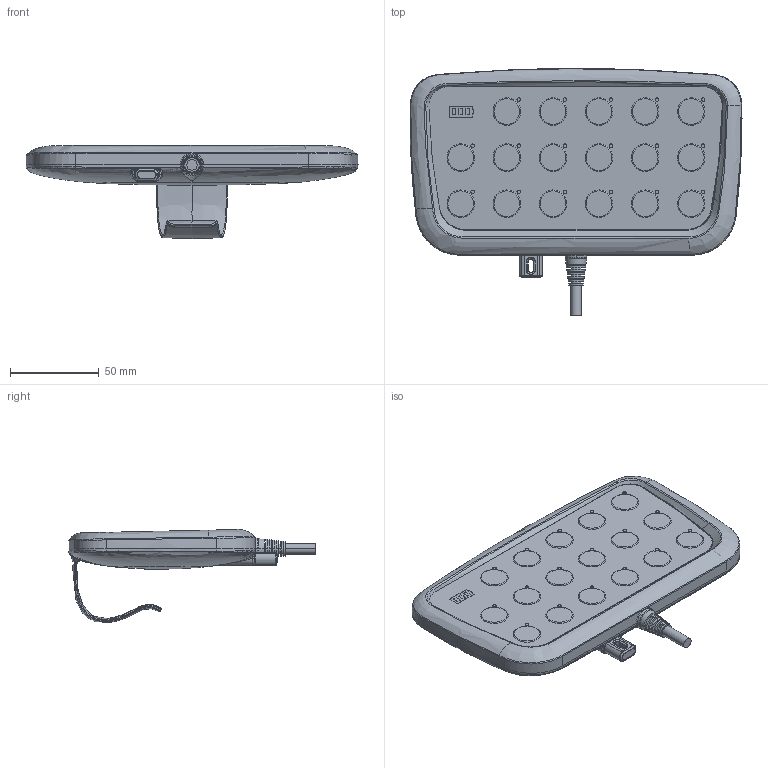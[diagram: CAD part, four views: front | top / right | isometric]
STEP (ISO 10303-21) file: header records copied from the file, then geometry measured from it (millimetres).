
FILE_DESCRIPTION (( 'STEP AP203' ), '1' );
FILE_NAME ('TNP6.STEP', '2014-03-04T08:35:45', ( '' ), ( '' ), 'SwSTEP 2.0', 'SolidWorks 2010', '' );
FILE_SCHEMA (( 'CONFIG_CONTROL_DESIGN' ));
Length unit declared in the file: millimetre
Products named in the file (7): TNP6; 2012-0904_TNP6_A_Front; 2012-0904_TNP6_A_Back; 2012-0904_TNP6_A_Panel; 三維零件圖-40510-005-SR-A; KEY; 2012-0904_TNP6_A_Hook
Assembly tree (6 placements, depth 2):
  TNP6
    2012-0904_TNP6_A_Panel
    三維零件圖-40510-005-SR-A
    2012-0904_TNP6_A_Hook
    2012-0904_TNP6_A_Front
    KEY
    2012-0904_TNP6_A_Back
Bounding box: 187.24 x 139.27 x 52.51 mm (x, y, z)
Volume: 304245.8 mm3; surface area: 119963.2 mm2
Topology: 6 solids, 7 shells, 716 faces, 1712 edges, 1050 vertices
Faces by surface type: plane 283, cylinder 151, bspline 149, torus 100, cone 33
Entity records: 53069 total; most frequent: CARTESIAN_POINT 36534, ORIENTED_EDGE 3404, DIRECTION 3100, EDGE_CURVE 1702, AXIS2_PLACEMENT_3D 1201, VERTEX_POINT 1050, EDGE_LOOP 770, FACE_OUTER_BOUND 716
